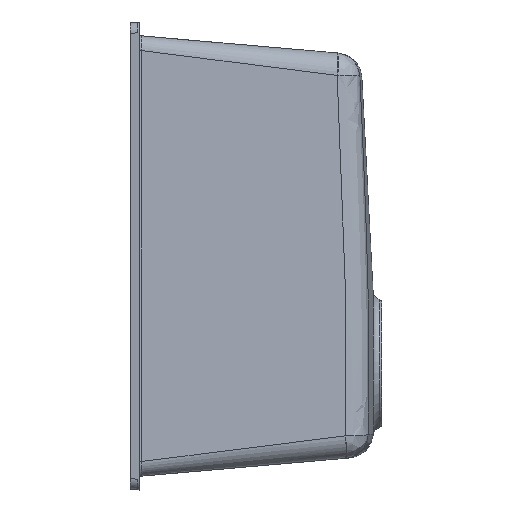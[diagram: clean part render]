
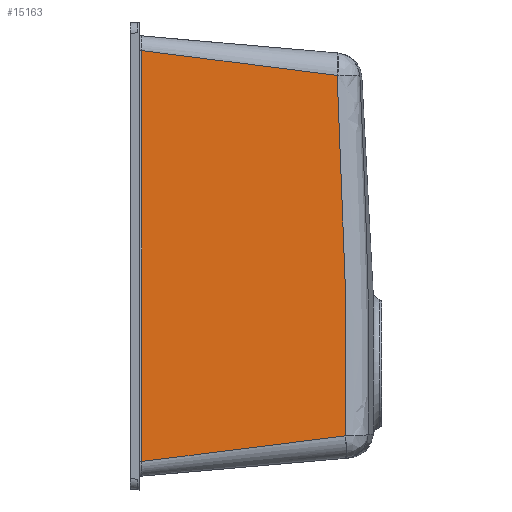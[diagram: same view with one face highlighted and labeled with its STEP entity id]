
A CAD part, left-side view. The second image highlights one B-rep face of the part: STEP entity #15163.
In plain terms, the highlighted planar face has unit normal (-0.996, -0.087, 0).
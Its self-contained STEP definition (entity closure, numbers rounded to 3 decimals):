
#227 = DIRECTION ( 'NONE',  ( -0.996, -0.087, 0. ) ) ;
#831 = B_SPLINE_CURVE_WITH_KNOTS ( 'NONE', 3,
 ( #13800, #13821, #13678, #13661 ),
 .UNSPECIFIED., .F., .F.,
 ( 4, 4 ),
 ( 0., 0. ),
 .UNSPECIFIED. ) ;
#901 = EDGE_CURVE ( 'NONE', #6283, #7361, #11884, .T. ) ;
#1109 = CARTESIAN_POINT ( 'NONE',  ( -350.54, -191.476, -149.619 ) ) ;
#1154 = CARTESIAN_POINT ( 'NONE',  ( -350.512, -191.794, -135.659 ) ) ;
#1173 = CARTESIAN_POINT ( 'NONE',  ( -350.491, -192.032, -121.699 ) ) ;
#1194 = CARTESIAN_POINT ( 'NONE',  ( -350.468, -192.295, -93.78 ) ) ;
#1198 = CARTESIAN_POINT ( 'NONE',  ( -367.096, -2.239, 208.43 ) ) ;
#1212 = CARTESIAN_POINT ( 'NONE',  ( -350.466, -192.319, -79.821 ) ) ;
#1257 = CARTESIAN_POINT ( 'NONE',  ( -350.481, -192.147, -51.903 ) ) ;
#1318 = CARTESIAN_POINT ( 'NONE',  ( -350.498, -191.952, -37.944 ) ) ;
#1338 = CARTESIAN_POINT ( 'NONE',  ( -350.548, -191.386, -10.027 ) ) ;
#1375 = CARTESIAN_POINT ( 'NONE',  ( -350.58, -191.016, 3.932 ) ) ;
#1384 = EDGE_CURVE ( 'NONE', #7361, #12539, #831, .T. ) ;
#1426 = CARTESIAN_POINT ( 'NONE',  ( -350.655, -190.161, 31.844 ) ) ;
#1440 = CARTESIAN_POINT ( 'NONE',  ( -350.697, -189.675, 45.798 ) ) ;
#1461 = CARTESIAN_POINT ( 'NONE',  ( -350.789, -188.63, 73.703 ) ) ;
#1493 = CARTESIAN_POINT ( 'NONE',  ( -350.838, -188.07, 87.654 ) ) ;
#1530 = CARTESIAN_POINT ( 'NONE',  ( -351.214, -183.765, 185.294 ) ) ;
#1560 = EDGE_CURVE ( 'NONE', #10816, #3776, #2528, .T. ) ;
#1594 = CARTESIAN_POINT ( 'NONE',  ( -350.991, -186.321, 129.503 ) ) ;
#1626 = EDGE_CURVE ( 'NONE', #12539, #3776, #7590, .T. ) ;
#1929 = PLANE ( 'NONE',  #10613 ) ;
#2455 = CARTESIAN_POINT ( 'NONE',  ( -361.812, -62.634, 199.414 ) ) ;
#2512 = VECTOR ( 'NONE', #12051, 1000. ) ;
#2528 = LINE ( 'NONE', #11974, #2512 ) ;
#3082 = CARTESIAN_POINT ( 'NONE',  ( -350.54, -191.476, -149.619 ) ) ;
#3520 = CARTESIAN_POINT ( 'NONE',  ( -351.214, -183.765, 185.294 ) ) ;
#3521 = CARTESIAN_POINT ( 'NONE',  ( -367.096, -2.239, -173.458 ) ) ;
#3638 = B_SPLINE_CURVE_WITH_KNOTS ( 'NONE', 3,
 ( #1198, #2455, #11156, #3699 ),
 .UNSPECIFIED., .F., .F.,
 ( 4, 4 ),
 ( -0.143, 0.04 ),
 .UNSPECIFIED. ) ;
#3699 = CARTESIAN_POINT ( 'NONE',  ( -351.214, -183.765, 185.294 ) ) ;
#3776 = VERTEX_POINT ( 'NONE', #3521 ) ;
#3966 = CARTESIAN_POINT ( 'NONE',  ( -351.101, -185.063, 157.4 ) ) ;
#5866 = CARTESIAN_POINT ( 'NONE',  ( -350.544, -191.425, -149.624 ) ) ;
#6283 = VERTEX_POINT ( 'NONE', #3520 ) ;
#7361 = VERTEX_POINT ( 'NONE', #3082 ) ;
#7590 = B_SPLINE_CURVE_WITH_KNOTS ( 'NONE', 3,
 ( #10673, #10629, #10614, #10575 ),
 .UNSPECIFIED., .F., .F.,
 ( 4, 4 ),
 ( -0.173, 0.018 ),
 .UNSPECIFIED. ) ;
#7738 = ORIENTED_EDGE ( 'NONE', *, *, #1560, .T. ) ;
#7772 = ORIENTED_EDGE ( 'NONE', *, *, #15765, .F. ) ;
#7790 = ORIENTED_EDGE ( 'NONE', *, *, #1626, .F. ) ;
#7815 = ORIENTED_EDGE ( 'NONE', *, *, #1384, .F. ) ;
#7829 = ORIENTED_EDGE ( 'NONE', *, *, #901, .F. ) ;
#8132 = CARTESIAN_POINT ( 'NONE',  ( -368.106, 9.303, 215.136 ) ) ;
#9543 = EDGE_LOOP ( 'NONE', ( #7772, #7738, #7790, #7815, #7829 ) ) ;
#10575 = CARTESIAN_POINT ( 'NONE',  ( -367.096, -2.239, -173.458 ) ) ;
#10613 = AXIS2_PLACEMENT_3D ( 'NONE', #8132, #227, #10687 ) ;
#10614 = CARTESIAN_POINT ( 'NONE',  ( -361.589, -65.187, -164.208 ) ) ;
#10629 = CARTESIAN_POINT ( 'NONE',  ( -356.08, -128.154, -155.16 ) ) ;
#10673 = CARTESIAN_POINT ( 'NONE',  ( -350.544, -191.425, -149.624 ) ) ;
#10687 = DIRECTION ( 'NONE',  ( 0.087, -0.996, 0. ) ) ;
#10816 = VERTEX_POINT ( 'NONE', #15351 ) ;
#11156 = CARTESIAN_POINT ( 'NONE',  ( -356.527, -123.048, 190.606 ) ) ;
#11291 = FACE_OUTER_BOUND ( 'NONE', #9543, .T. ) ;
#11884 = B_SPLINE_CURVE_WITH_KNOTS ( 'NONE', 3,
 ( #1530, #3966, #1594, #1493, #1461, #1440, #1426, #1375, #1338, #1318, #1257, #1212, #1194, #1173, #1154, #1109 ),
 .UNSPECIFIED., .F., .F.,
 ( 4, 2, 2, 2, 2, 2, 2, 4 ),
 ( 0., 0.084, 0.126, 0.168, 0.209, 0.251, 0.293, 0.335 ),
 .UNSPECIFIED. ) ;
#11974 = CARTESIAN_POINT ( 'NONE',  ( -367.096, -2.239, -173.86 ) ) ;
#12051 = DIRECTION ( 'NONE',  ( 0., 0., -1. ) ) ;
#12539 = VERTEX_POINT ( 'NONE', #5866 ) ;
#13661 = CARTESIAN_POINT ( 'NONE',  ( -350.544, -191.425, -149.624 ) ) ;
#13678 = CARTESIAN_POINT ( 'NONE',  ( -350.543, -191.442, -149.623 ) ) ;
#13800 = CARTESIAN_POINT ( 'NONE',  ( -350.54, -191.476, -149.619 ) ) ;
#13821 = CARTESIAN_POINT ( 'NONE',  ( -350.541, -191.459, -149.621 ) ) ;
#15163 = ADVANCED_FACE ( 'NONE', ( #11291 ), #1929, .T. ) ;
#15351 = CARTESIAN_POINT ( 'NONE',  ( -367.096, -2.239, 208.43 ) ) ;
#15765 = EDGE_CURVE ( 'NONE', #10816, #6283, #3638, .T. ) ;
